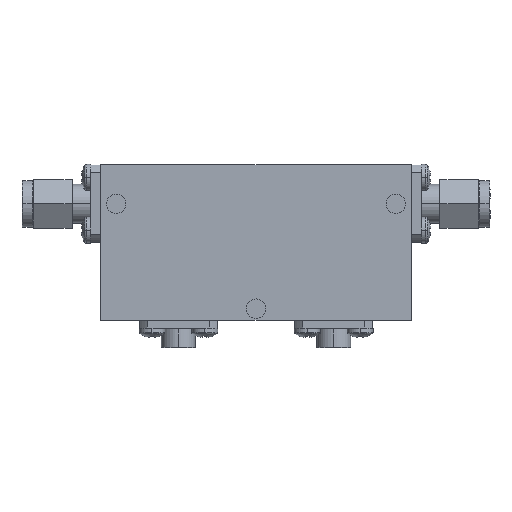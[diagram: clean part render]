
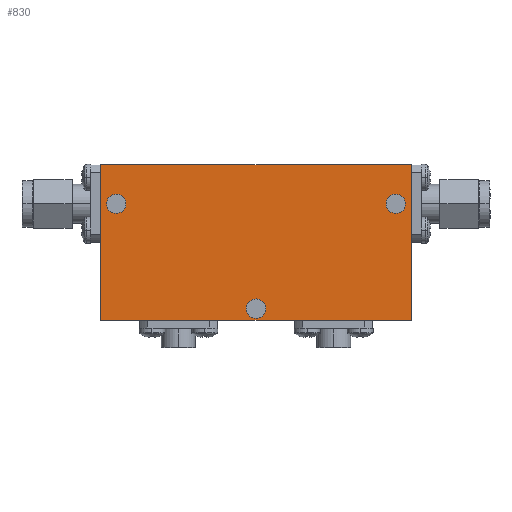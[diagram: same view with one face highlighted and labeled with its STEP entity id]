
A CAD part, top view. The second image highlights one B-rep face of the part: STEP entity #830.
In plain terms, the highlighted planar face has unit normal (0, 0, 1).
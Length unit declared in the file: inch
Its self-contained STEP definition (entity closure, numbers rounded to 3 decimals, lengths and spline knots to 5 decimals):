
#94 = CARTESIAN_POINT ( 'NONE',  ( -1., 0.5, 0.25 ) ) ;
#139 = VERTEX_POINT ( 'NONE', #4279 ) ;
#226 = EDGE_CURVE ( 'NONE', #1768, #831, #4180, .T. ) ;
#278 = CIRCLE ( 'NONE', #404, 0.0625 ) ;
#329 = ORIENTED_EDGE ( 'NONE', *, *, #1958, .T. ) ;
#332 = EDGE_CURVE ( 'NONE', #139, #2019, #278, .T. ) ;
#335 = EDGE_LOOP ( 'NONE', ( #2860, #3634 ) ) ;
#362 = EDGE_CURVE ( 'NONE', #4126, #1229, #600, .T. ) ;
#404 = AXIS2_PLACEMENT_3D ( 'NONE', #3987, #1586, #1916 ) ;
#504 = CARTESIAN_POINT ( 'NONE',  ( -1., 0.5, 0.25 ) ) ;
#524 = DIRECTION ( 'NONE',  ( 1., 0., 0. ) ) ;
#600 = CIRCLE ( 'NONE', #2199, 0.0625 ) ;
#636 = DIRECTION ( 'NONE',  ( 1., 0., 0. ) ) ;
#687 = CARTESIAN_POINT ( 'NONE',  ( 1., 0.5, 0.25 ) ) ;
#689 = VERTEX_POINT ( 'NONE', #2525 ) ;
#705 = VECTOR ( 'NONE', #1073, 39.37008 ) ;
#708 = EDGE_CURVE ( 'NONE', #1769, #1718, #3223, .T. ) ;
#714 = CIRCLE ( 'NONE', #2669, 0.0625 ) ;
#780 = DIRECTION ( 'NONE',  ( 0., 0., 1. ) ) ;
#830 = ADVANCED_FACE ( 'NONE', ( #2143, #2260, #1245, #3050 ), #3584, .T. ) ;
#831 = VERTEX_POINT ( 'NONE', #3238 ) ;
#839 = DIRECTION ( 'NONE',  ( 0., 0., 1. ) ) ;
#902 = EDGE_CURVE ( 'NONE', #689, #2114, #3650, .T. ) ;
#1073 = DIRECTION ( 'NONE',  ( -1., 0., 0. ) ) ;
#1111 = CARTESIAN_POINT ( 'NONE',  ( 0., -0.425, 0.25 ) ) ;
#1121 = DIRECTION ( 'NONE',  ( 1., 0., 0. ) ) ;
#1135 = DIRECTION ( 'NONE',  ( 0., -1., 0. ) ) ;
#1153 = ORIENTED_EDGE ( 'NONE', *, *, #708, .T. ) ;
#1229 = VERTEX_POINT ( 'NONE', #2195 ) ;
#1245 = FACE_BOUND ( 'NONE', #2301, .T. ) ;
#1257 = CARTESIAN_POINT ( 'NONE',  ( 0., -0.425, 0.25 ) ) ;
#1313 = CARTESIAN_POINT ( 'NONE',  ( 0.9, 0.25, 0.25 ) ) ;
#1329 = DIRECTION ( 'NONE',  ( 1., 0., 0. ) ) ;
#1404 = VECTOR ( 'NONE', #1135, 39.37008 ) ;
#1437 = CIRCLE ( 'NONE', #2604, 0.0625 ) ;
#1508 = EDGE_LOOP ( 'NONE', ( #1516, #4212 ) ) ;
#1516 = ORIENTED_EDGE ( 'NONE', *, *, #3487, .F. ) ;
#1531 = CARTESIAN_POINT ( 'NONE',  ( 0., 0., 0.25 ) ) ;
#1586 = DIRECTION ( 'NONE',  ( 0., 0., 1. ) ) ;
#1627 = DIRECTION ( 'NONE',  ( 1., 0., 0. ) ) ;
#1677 = EDGE_CURVE ( 'NONE', #2114, #1769, #1928, .T. ) ;
#1678 = EDGE_LOOP ( 'NONE', ( #2270, #2467, #1153, #329 ) ) ;
#1718 = VERTEX_POINT ( 'NONE', #3215 ) ;
#1768 = VERTEX_POINT ( 'NONE', #2554 ) ;
#1769 = VERTEX_POINT ( 'NONE', #504 ) ;
#1824 = VECTOR ( 'NONE', #2051, 39.37008 ) ;
#1846 = ORIENTED_EDGE ( 'NONE', *, *, #4004, .F. ) ;
#1851 = AXIS2_PLACEMENT_3D ( 'NONE', #1257, #4337, #1627 ) ;
#1872 = DIRECTION ( 'NONE',  ( 1., 0., 0. ) ) ;
#1916 = DIRECTION ( 'NONE',  ( 1., 0., 0. ) ) ;
#1928 = LINE ( 'NONE', #94, #705 ) ;
#1958 = EDGE_CURVE ( 'NONE', #1718, #689, #2255, .T. ) ;
#1971 = ORIENTED_EDGE ( 'NONE', *, *, #332, .F. ) ;
#2019 = VERTEX_POINT ( 'NONE', #2363 ) ;
#2048 = DIRECTION ( 'NONE',  ( 0., 0., 1. ) ) ;
#2051 = DIRECTION ( 'NONE',  ( 0., 1., 0. ) ) ;
#2114 = VERTEX_POINT ( 'NONE', #2394 ) ;
#2143 = FACE_BOUND ( 'NONE', #1508, .T. ) ;
#2154 = AXIS2_PLACEMENT_3D ( 'NONE', #2895, #2575, #524 ) ;
#2195 = CARTESIAN_POINT ( 'NONE',  ( 0.9625, 0.25, 0.25 ) ) ;
#2199 = AXIS2_PLACEMENT_3D ( 'NONE', #1313, #2048, #1329 ) ;
#2255 = LINE ( 'NONE', #3937, #2631 ) ;
#2260 = FACE_BOUND ( 'NONE', #335, .T. ) ;
#2270 = ORIENTED_EDGE ( 'NONE', *, *, #902, .T. ) ;
#2301 = EDGE_LOOP ( 'NONE', ( #1846, #1971 ) ) ;
#2363 = CARTESIAN_POINT ( 'NONE',  ( -0.8375, 0.25, 0.25 ) ) ;
#2394 = CARTESIAN_POINT ( 'NONE',  ( 1., 0.5, 0.25 ) ) ;
#2467 = ORIENTED_EDGE ( 'NONE', *, *, #1677, .T. ) ;
#2525 = CARTESIAN_POINT ( 'NONE',  ( 1., -0.5, 0.25 ) ) ;
#2554 = CARTESIAN_POINT ( 'NONE',  ( -0.0625, -0.425, 0.25 ) ) ;
#2575 = DIRECTION ( 'NONE',  ( 0., 0., 1. ) ) ;
#2604 = AXIS2_PLACEMENT_3D ( 'NONE', #1111, #780, #1121 ) ;
#2631 = VECTOR ( 'NONE', #636, 39.37008 ) ;
#2669 = AXIS2_PLACEMENT_3D ( 'NONE', #3560, #839, #3882 ) ;
#2860 = ORIENTED_EDGE ( 'NONE', *, *, #3835, .F. ) ;
#2895 = CARTESIAN_POINT ( 'NONE',  ( 0.9, 0.25, 0.25 ) ) ;
#3037 = CIRCLE ( 'NONE', #2154, 0.0625 ) ;
#3050 = FACE_OUTER_BOUND ( 'NONE', #1678, .T. ) ;
#3194 = CARTESIAN_POINT ( 'NONE',  ( -1., 0.5, 0.25 ) ) ;
#3215 = CARTESIAN_POINT ( 'NONE',  ( -1., -0.5, 0.25 ) ) ;
#3223 = LINE ( 'NONE', #3194, #1404 ) ;
#3238 = CARTESIAN_POINT ( 'NONE',  ( 0.0625, -0.425, 0.25 ) ) ;
#3246 = CARTESIAN_POINT ( 'NONE',  ( 0.8375, 0.25, 0.25 ) ) ;
#3487 = EDGE_CURVE ( 'NONE', #1229, #4126, #3037, .T. ) ;
#3560 = CARTESIAN_POINT ( 'NONE',  ( -0.9, 0.25, 0.25 ) ) ;
#3581 = AXIS2_PLACEMENT_3D ( 'NONE', #1531, #3927, #1872 ) ;
#3584 = PLANE ( 'NONE',  #3581 ) ;
#3634 = ORIENTED_EDGE ( 'NONE', *, *, #226, .F. ) ;
#3650 = LINE ( 'NONE', #687, #1824 ) ;
#3835 = EDGE_CURVE ( 'NONE', #831, #1768, #1437, .T. ) ;
#3882 = DIRECTION ( 'NONE',  ( 1., 0., 0. ) ) ;
#3927 = DIRECTION ( 'NONE',  ( 0., 0., 1. ) ) ;
#3937 = CARTESIAN_POINT ( 'NONE',  ( -1., -0.5, 0.25 ) ) ;
#3987 = CARTESIAN_POINT ( 'NONE',  ( -0.9, 0.25, 0.25 ) ) ;
#4004 = EDGE_CURVE ( 'NONE', #2019, #139, #714, .T. ) ;
#4126 = VERTEX_POINT ( 'NONE', #3246 ) ;
#4180 = CIRCLE ( 'NONE', #1851, 0.0625 ) ;
#4212 = ORIENTED_EDGE ( 'NONE', *, *, #362, .F. ) ;
#4279 = CARTESIAN_POINT ( 'NONE',  ( -0.9625, 0.25, 0.25 ) ) ;
#4337 = DIRECTION ( 'NONE',  ( 0., 0., 1. ) ) ;
